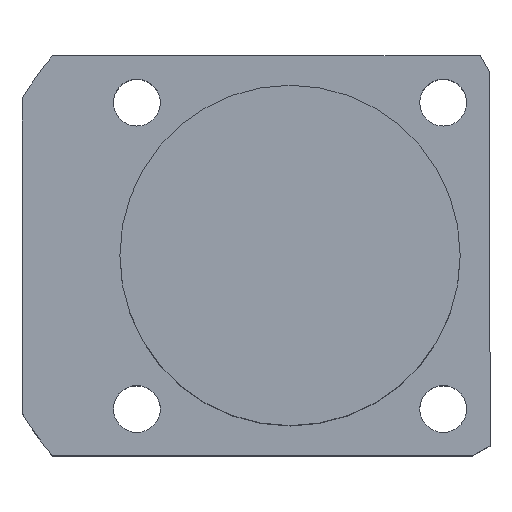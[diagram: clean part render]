
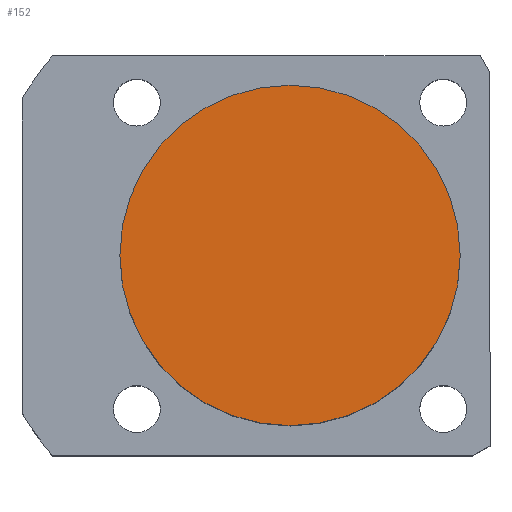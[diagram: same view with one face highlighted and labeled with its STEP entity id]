
A CAD part, top view. The second image highlights one B-rep face of the part: STEP entity #152.
In plain terms, the highlighted planar face has unit normal (0, 0, 1).
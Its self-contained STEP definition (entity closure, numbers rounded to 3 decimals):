
#100 = DIRECTION ( 'NONE',  ( 0., 0., 1. ) ) ;
#109 = DIRECTION ( 'NONE',  ( 0., 0., 1. ) ) ;
#152 = ADVANCED_FACE ( 'NONE', ( #1466 ), #1572, .T. ) ;
#270 = DIRECTION ( 'NONE',  ( 1., 0., 0. ) ) ;
#339 = EDGE_CURVE ( 'NONE', #613, #1195, #454, .T. ) ;
#422 = CIRCLE ( 'NONE', #792, 20. ) ;
#454 = CIRCLE ( 'NONE', #556, 20. ) ;
#519 = DIRECTION ( 'NONE',  ( 1., 0., 0. ) ) ;
#556 = AXIS2_PLACEMENT_3D ( 'NONE', #1187, #1167, #519 ) ;
#613 = VERTEX_POINT ( 'NONE', #1524 ) ;
#792 = AXIS2_PLACEMENT_3D ( 'NONE', #1728, #100, #270 ) ;
#905 = AXIS2_PLACEMENT_3D ( 'NONE', #919, #109, #1107 ) ;
#919 = CARTESIAN_POINT ( 'NONE',  ( 0., 0., 36.5 ) ) ;
#1067 = CARTESIAN_POINT ( 'NONE',  ( -20., 0., 36.5 ) ) ;
#1107 = DIRECTION ( 'NONE',  ( 1., 0., 0. ) ) ;
#1167 = DIRECTION ( 'NONE',  ( 0., 0., 1. ) ) ;
#1187 = CARTESIAN_POINT ( 'NONE',  ( 0., 0., 36.5 ) ) ;
#1195 = VERTEX_POINT ( 'NONE', #1067 ) ;
#1203 = EDGE_CURVE ( 'NONE', #1195, #613, #422, .T. ) ;
#1466 = FACE_OUTER_BOUND ( 'NONE', #1557, .T. ) ;
#1524 = CARTESIAN_POINT ( 'NONE',  ( 20., 0., 36.5 ) ) ;
#1557 = EDGE_LOOP ( 'NONE', ( #2072, #2015 ) ) ;
#1572 = PLANE ( 'NONE',  #905 ) ;
#1728 = CARTESIAN_POINT ( 'NONE',  ( 0., 0., 36.5 ) ) ;
#2015 = ORIENTED_EDGE ( 'NONE', *, *, #339, .T. ) ;
#2072 = ORIENTED_EDGE ( 'NONE', *, *, #1203, .T. ) ;
